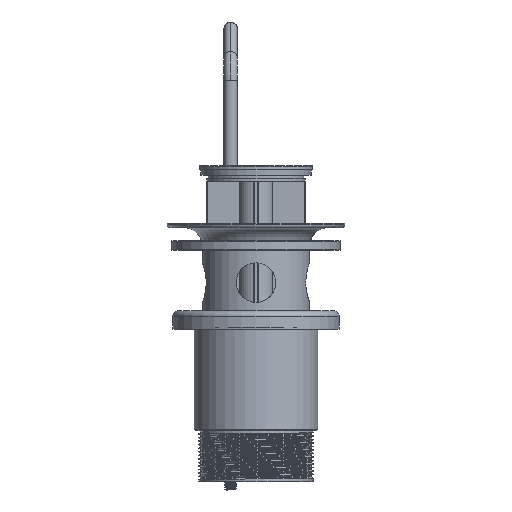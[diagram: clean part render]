
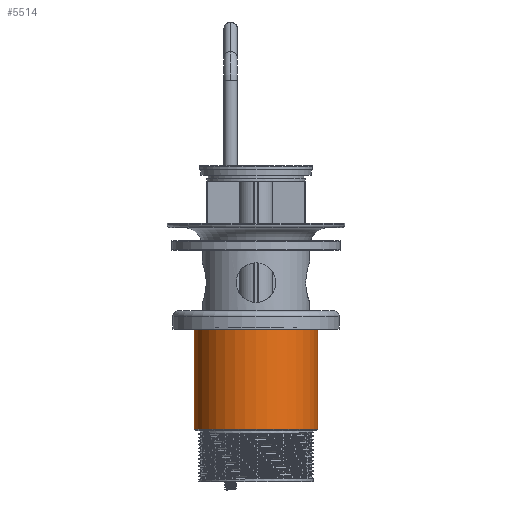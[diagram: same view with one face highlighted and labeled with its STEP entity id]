
A CAD part, front view. The second image highlights one B-rep face of the part: STEP entity #5514.
In plain terms, the highlighted cylindrical face has radius 21.9 mm (diameter 43.8 mm), a partial arc.
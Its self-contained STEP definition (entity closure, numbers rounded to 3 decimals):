
#291 = ORIENTED_EDGE ( 'NONE', *, *, #14714, .F. ) ;
#970 = LINE ( 'NONE', #7976, #2922 ) ;
#1107 = CARTESIAN_POINT ( 'NONE',  ( 21.9, 0., 54.5 ) ) ;
#1108 = VERTEX_POINT ( 'NONE', #16474 ) ;
#1154 = AXIS2_PLACEMENT_3D ( 'NONE', #9630, #1179, #16439 ) ;
#1179 = DIRECTION ( 'NONE',  ( 0., 0., -1. ) ) ;
#1311 = CARTESIAN_POINT ( 'NONE',  ( 0., 0., 54.5 ) ) ;
#1346 = VERTEX_POINT ( 'NONE', #8309 ) ;
#2922 = VECTOR ( 'NONE', #6419, 1000. ) ;
#3445 = ORIENTED_EDGE ( 'NONE', *, *, #14423, .T. ) ;
#4513 = CYLINDRICAL_SURFACE ( 'NONE', #1154, 21.9 ) ;
#4922 = CARTESIAN_POINT ( 'NONE',  ( 21.9, 0., 18.5 ) ) ;
#5514 = ADVANCED_FACE ( 'NONE', ( #19778 ), #4513, .T. ) ;
#6306 = AXIS2_PLACEMENT_3D ( 'NONE', #1311, #16682, #13006 ) ;
#6410 = VERTEX_POINT ( 'NONE', #4922 ) ;
#6419 = DIRECTION ( 'NONE',  ( 0., 0., -1. ) ) ;
#6703 = EDGE_CURVE ( 'NONE', #9465, #1108, #7414, .T. ) ;
#7414 = CIRCLE ( 'NONE', #6306, 21.9 ) ;
#7874 = DIRECTION ( 'NONE',  ( 0., 0., 1. ) ) ;
#7892 = ORIENTED_EDGE ( 'NONE', *, *, #6703, .T. ) ;
#7976 = CARTESIAN_POINT ( 'NONE',  ( 21.9, 0., 54. ) ) ;
#8309 = CARTESIAN_POINT ( 'NONE',  ( -21.9, 0., 18.5 ) ) ;
#8957 = VECTOR ( 'NONE', #17032, 1000. ) ;
#9465 = VERTEX_POINT ( 'NONE', #1107 ) ;
#9630 = CARTESIAN_POINT ( 'NONE',  ( 0., 0., 54. ) ) ;
#9680 = LINE ( 'NONE', #10216, #8957 ) ;
#10113 = ORIENTED_EDGE ( 'NONE', *, *, #12567, .T. ) ;
#10216 = CARTESIAN_POINT ( 'NONE',  ( -21.9, 0., 54. ) ) ;
#12567 = EDGE_CURVE ( 'NONE', #1346, #6410, #18165, .T. ) ;
#13006 = DIRECTION ( 'NONE',  ( -1., 0., 0. ) ) ;
#14423 = EDGE_CURVE ( 'NONE', #1108, #1346, #9680, .T. ) ;
#14714 = EDGE_CURVE ( 'NONE', #9465, #6410, #970, .T. ) ;
#16154 = EDGE_LOOP ( 'NONE', ( #291, #7892, #3445, #10113 ) ) ;
#16439 = DIRECTION ( 'NONE',  ( -1., 0., 0. ) ) ;
#16474 = CARTESIAN_POINT ( 'NONE',  ( -21.9, 0., 54.5 ) ) ;
#16682 = DIRECTION ( 'NONE',  ( 0., 0., -1. ) ) ;
#17032 = DIRECTION ( 'NONE',  ( 0., 0., -1. ) ) ;
#18165 = CIRCLE ( 'NONE', #18868, 21.9 ) ;
#18366 = DIRECTION ( 'NONE',  ( 1., 0., 0. ) ) ;
#18868 = AXIS2_PLACEMENT_3D ( 'NONE', #21475, #7874, #18366 ) ;
#19778 = FACE_OUTER_BOUND ( 'NONE', #16154, .T. ) ;
#21475 = CARTESIAN_POINT ( 'NONE',  ( 0., 0., 18.5 ) ) ;
